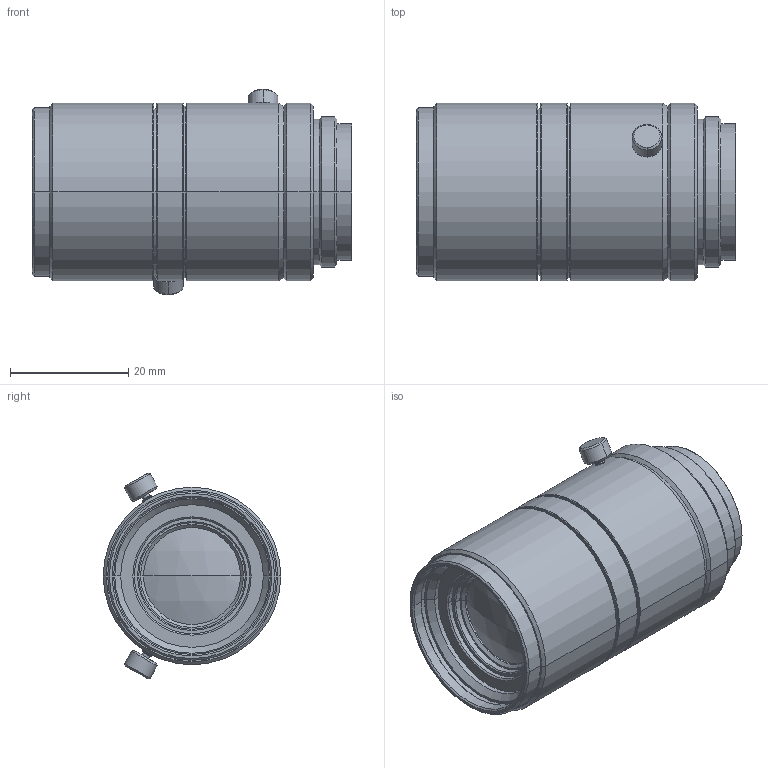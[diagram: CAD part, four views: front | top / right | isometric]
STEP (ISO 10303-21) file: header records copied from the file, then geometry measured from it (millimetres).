
FILE_DESCRIPTION (( 'STEP AP203' ), '1' );
FILE_NAME ('SV-1614H.STEP', '2015-07-17T07:15:53', ( 'miura_vst' ), ( '' ), 'SwSTEP 2.0', 'SolidWorks 2015', '' );
FILE_SCHEMA (( 'CONFIG_CONTROL_DESIGN' ));
Length unit declared in the file: millimetre
Products named in the file (1): SV-1614H
Bounding box: 54 x 30 x 34.76 mm (x, y, z)
Volume: 33057 mm3; surface area: 7306.3 mm2
Topology: 1 solids, 1 shells, 124 faces, 246 edges, 142 vertices
Faces by surface type: cone 56, cylinder 46, plane 18, sphere 4
Entity records: 3315 total; most frequent: DIRECTION 632, CARTESIAN_POINT 577, ORIENTED_EDGE 492, AXIS2_PLACEMENT_3D 265, EDGE_CURVE 246, EDGE_LOOP 142, VERTEX_POINT 142, CIRCLE 140
